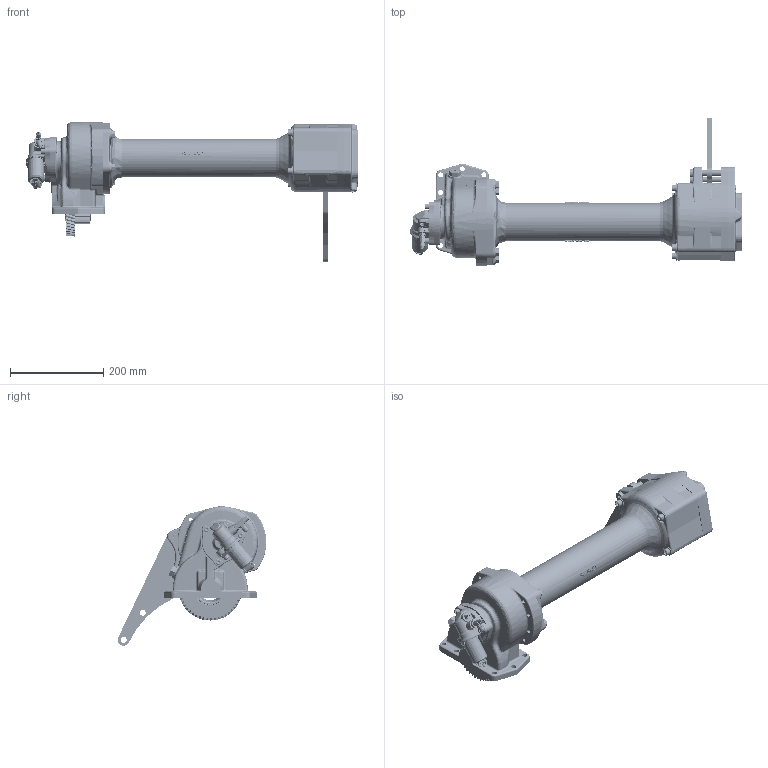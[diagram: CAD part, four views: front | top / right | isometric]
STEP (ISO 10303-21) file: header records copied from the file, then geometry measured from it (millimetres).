
FILE_DESCRIPTION((''),'2;1');
FILE_NAME('C:\Inventor\890H-B5XY.stp','2011-06-24T13:57:40',('jba7756'),(''),'Autodesk Inventor 2010','Autodesk Inventor 2010','');
FILE_SCHEMA(('AUTOMOTIVE_DESIGN { 1 0 10303 214 1 1 1 1 }'));
Length unit declared in the file: inch
Products named in the file (3): 890H-B5XY; 890_-BXY; 50-P-62
Assembly tree (2 placements, depth 2):
  890H-B5XY
    890_-BXY
    50-P-62
Bounding box: 712.15 x 318.71 x 299.13 mm (x, y, z)
Volume: 4459086.5 mm3; surface area: 924679.4 mm2
Topology: 26 solids, 26 shells, 9450 faces, 24709 edges, 15478 vertices
Faces by surface type: plane 3082, cylinder 2975, bspline 2808, cone 333, torus 233, sphere 19
Full cylindrical faces by diameter (mm): 0.8 x1, 1.981 x3, 2.388 x1, 2.858 x2, 3.175 x6, 4.369 x2, 4.699 x1, 4.75 x1, 7.798 x2, 7.836 x5, 7.925 x4, 7.938 x2, 7.95 x1, 8.331 x1, 8.611 x1, 8.712 x3, 9.246 x5, 9.347 x4, 9.449 x4, 9.525 x4, 10.414 x8, 11.113 x4, 11.115 x1, 11.76 x4, 11.811 x2, 12.7 x4, 13 x3, 13.487 x1, 13.589 x4, 14.122 x4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
Entity records: 378330 total; most frequent: CARTESIAN_POINT 155182, ORIENTED_EDGE 47878, DIRECTION 38407, EDGE_CURVE 23939, VERTEX_POINT 15219, AXIS2_PLACEMENT_3D 13748, VECTOR 10911, LINE 10911
